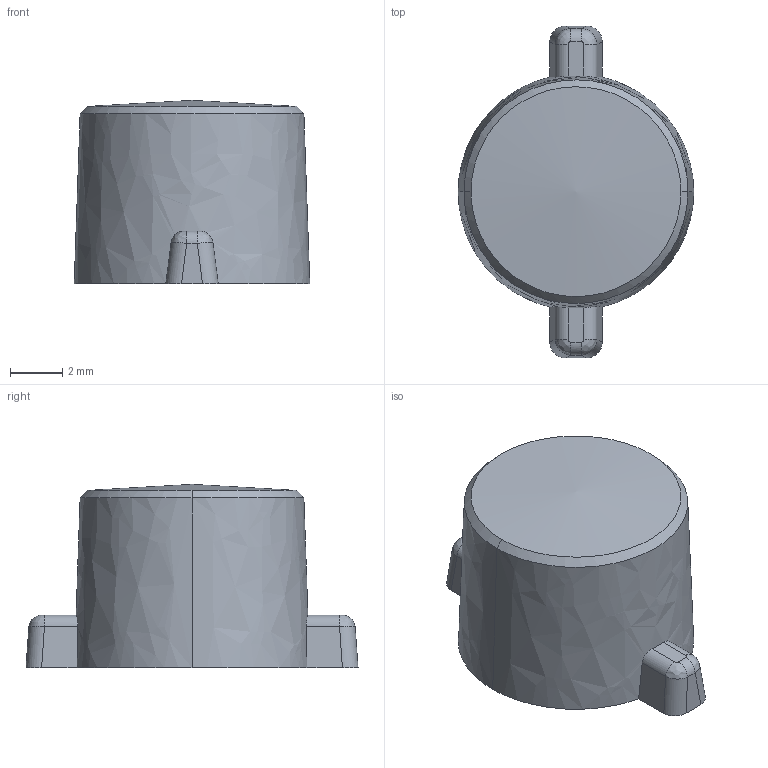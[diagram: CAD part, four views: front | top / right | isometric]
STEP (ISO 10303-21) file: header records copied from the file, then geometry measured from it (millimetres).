
FILE_DESCRIPTION(/* description */ (''),/* implementation_level */ '2;1');
FILE_NAME(/* name */ 'gray button',/* time_stamp */ '2026-04-10T19:42:34+09:00',/* author */ (''),/* organization */ (''),/* preprocessor_version */ 'ST-DEVELOPER v16.5',/* originating_system */ '',/* authorisation */ '');
FILE_SCHEMA (('CONFIG_CONTROL_DESIGN'));
Length unit declared in the file: millimetre
Products named in the file (1): Document
Bounding box: 9 x 12.68 x 7 mm (x, y, z)
Volume: 301.1 mm3; surface area: 518 mm2
Topology: 1 solids, 1 shells, 52 faces, 132 edges, 84 vertices
Faces by surface type: bspline 24, cylinder 18, plane 10
Entity records: 1995 total; most frequent: CARTESIAN_POINT 1126, ORIENTED_EDGE 264, EDGE_CURVE 132, VERTEX_POINT 84, EDGE_LOOP 54, ADVANCED_FACE 52, FACE_OUTER_BOUND 52, B_SPLINE_CURVE_WITH_KNOTS 51
